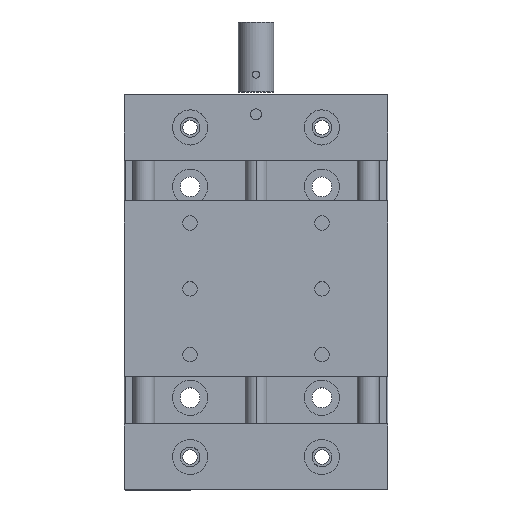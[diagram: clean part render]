
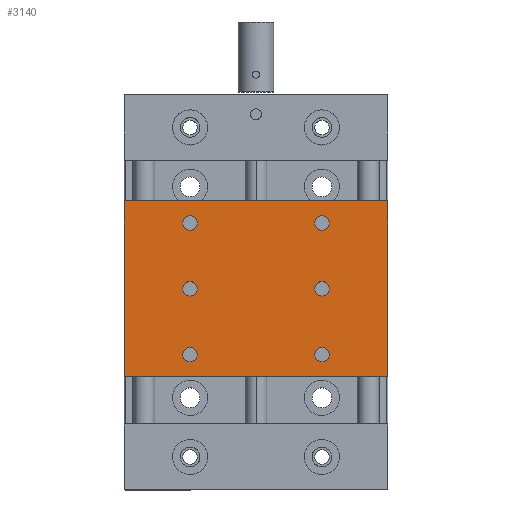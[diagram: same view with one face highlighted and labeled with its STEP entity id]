
A CAD part, top view. The second image highlights one B-rep face of the part: STEP entity #3140.
In plain terms, the highlighted planar face has unit normal (0, 0, -1).
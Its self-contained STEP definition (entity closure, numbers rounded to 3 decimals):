
#64 = FACE_BOUND ( 'NONE', #122, .T. ) ;
#81 = DIRECTION ( 'NONE',  ( 0., 0., -1. ) ) ;
#122 = EDGE_LOOP ( 'NONE', ( #3421, #2827 ) ) ;
#124 = CARTESIAN_POINT ( 'NONE',  ( 2.568, -63.14, 88.153 ) ) ;
#141 = FACE_BOUND ( 'NONE', #6535, .T. ) ;
#171 = AXIS2_PLACEMENT_3D ( 'NONE', #5495, #1207, #3896 ) ;
#235 = EDGE_LOOP ( 'NONE', ( #4572, #6624 ) ) ;
#335 = CARTESIAN_POINT ( 'NONE',  ( 2.568, -93.14, 88.153 ) ) ;
#371 = ORIENTED_EDGE ( 'NONE', *, *, #4055, .F. ) ;
#386 = CARTESIAN_POINT ( 'NONE',  ( -10.782, -98.14, 88.153 ) ) ;
#406 = CIRCLE ( 'NONE', #2994, 1.65 ) ;
#477 = CIRCLE ( 'NONE', #171, 1.65 ) ;
#512 = LINE ( 'NONE', #4580, #3130 ) ;
#551 = DIRECTION ( 'NONE',  ( 0., 0., -1. ) ) ;
#596 = AXIS2_PLACEMENT_3D ( 'NONE', #6666, #4535, #764 ) ;
#617 = PLANE ( 'NONE',  #5458 ) ;
#631 = EDGE_CURVE ( 'NONE', #1284, #1217, #1989, .T. ) ;
#699 = ORIENTED_EDGE ( 'NONE', *, *, #6640, .F. ) ;
#738 = CIRCLE ( 'NONE', #596, 1.65 ) ;
#758 = DIRECTION ( 'NONE',  ( 0., 0., -1. ) ) ;
#764 = DIRECTION ( 'NONE',  ( 1., 0., 0. ) ) ;
#776 = DIRECTION ( 'NONE',  ( 1., 0., 0. ) ) ;
#801 = DIRECTION ( 'NONE',  ( 1., 0., 0. ) ) ;
#909 = CIRCLE ( 'NONE', #5841, 1.65 ) ;
#980 = AXIS2_PLACEMENT_3D ( 'NONE', #1403, #1922, #5181 ) ;
#1013 = VERTEX_POINT ( 'NONE', #4953 ) ;
#1183 = CARTESIAN_POINT ( 'NONE',  ( -10.782, -58.14, 88.153 ) ) ;
#1207 = DIRECTION ( 'NONE',  ( 0., 0., -1. ) ) ;
#1217 = VERTEX_POINT ( 'NONE', #6913 ) ;
#1232 = CARTESIAN_POINT ( 'NONE',  ( 34.218, -78.14, 88.153 ) ) ;
#1236 = FACE_BOUND ( 'NONE', #235, .T. ) ;
#1254 = DIRECTION ( 'NONE',  ( 0., -1., 0. ) ) ;
#1284 = VERTEX_POINT ( 'NONE', #3133 ) ;
#1308 = DIRECTION ( 'NONE',  ( 0., 0., -1. ) ) ;
#1343 = DIRECTION ( 'NONE',  ( 0., 1., 0. ) ) ;
#1395 = FACE_OUTER_BOUND ( 'NONE', #6266, .T. ) ;
#1401 = AXIS2_PLACEMENT_3D ( 'NONE', #1232, #81, #3945 ) ;
#1403 = CARTESIAN_POINT ( 'NONE',  ( 34.218, -63.14, 88.153 ) ) ;
#1487 = CIRCLE ( 'NONE', #1973, 1.65 ) ;
#1513 = ORIENTED_EDGE ( 'NONE', *, *, #3014, .F. ) ;
#1523 = ORIENTED_EDGE ( 'NONE', *, *, #6492, .F. ) ;
#1551 = ORIENTED_EDGE ( 'NONE', *, *, #2467, .F. ) ;
#1562 = CARTESIAN_POINT ( 'NONE',  ( 4.218, -93.14, 88.153 ) ) ;
#1671 = CARTESIAN_POINT ( 'NONE',  ( 19.218, -78.14, 88.153 ) ) ;
#1753 = VERTEX_POINT ( 'NONE', #3189 ) ;
#1769 = DIRECTION ( 'NONE',  ( -1., 0., 0. ) ) ;
#1801 = ORIENTED_EDGE ( 'NONE', *, *, #3337, .F. ) ;
#1830 = DIRECTION ( 'NONE',  ( 1., 0., 0. ) ) ;
#1837 = CARTESIAN_POINT ( 'NONE',  ( 34.218, -93.14, 88.153 ) ) ;
#1922 = DIRECTION ( 'NONE',  ( 0., 0., -1. ) ) ;
#1973 = AXIS2_PLACEMENT_3D ( 'NONE', #2247, #551, #4325 ) ;
#1989 = CIRCLE ( 'NONE', #2586, 1.65 ) ;
#2025 = EDGE_CURVE ( 'NONE', #5678, #6478, #406, .T. ) ;
#2083 = VERTEX_POINT ( 'NONE', #4127 ) ;
#2113 = EDGE_CURVE ( 'NONE', #3573, #6938, #2424, .T. ) ;
#2198 = CIRCLE ( 'NONE', #4705, 1.65 ) ;
#2247 = CARTESIAN_POINT ( 'NONE',  ( 34.218, -63.14, 88.153 ) ) ;
#2311 = AXIS2_PLACEMENT_3D ( 'NONE', #6231, #2393, #3017 ) ;
#2340 = VERTEX_POINT ( 'NONE', #4891 ) ;
#2355 = CARTESIAN_POINT ( 'NONE',  ( 32.568, -63.14, 88.153 ) ) ;
#2393 = DIRECTION ( 'NONE',  ( 0., 0., -1. ) ) ;
#2424 = CIRCLE ( 'NONE', #2311, 1.65 ) ;
#2467 = EDGE_CURVE ( 'NONE', #1217, #1284, #738, .T. ) ;
#2498 = CARTESIAN_POINT ( 'NONE',  ( 35.868, -78.14, 88.153 ) ) ;
#2586 = AXIS2_PLACEMENT_3D ( 'NONE', #5147, #3011, #3055 ) ;
#2606 = DIRECTION ( 'NONE',  ( 0., 0., -1. ) ) ;
#2671 = FACE_BOUND ( 'NONE', #3832, .T. ) ;
#2827 = ORIENTED_EDGE ( 'NONE', *, *, #2025, .F. ) ;
#2840 = LINE ( 'NONE', #5478, #4101 ) ;
#2948 = CARTESIAN_POINT ( 'NONE',  ( -10.782, -58.14, 88.153 ) ) ;
#2978 = VERTEX_POINT ( 'NONE', #5898 ) ;
#2994 = AXIS2_PLACEMENT_3D ( 'NONE', #3451, #1308, #1830 ) ;
#3011 = DIRECTION ( 'NONE',  ( 0., 0., -1. ) ) ;
#3014 = EDGE_CURVE ( 'NONE', #1753, #6481, #4028, .T. ) ;
#3017 = DIRECTION ( 'NONE',  ( 1., 0., 0. ) ) ;
#3055 = DIRECTION ( 'NONE',  ( 1., 0., 0. ) ) ;
#3115 = EDGE_CURVE ( 'NONE', #2340, #3652, #1487, .T. ) ;
#3130 = VECTOR ( 'NONE', #1343, 1000. ) ;
#3133 = CARTESIAN_POINT ( 'NONE',  ( 2.568, -78.14, 88.153 ) ) ;
#3140 = ADVANCED_FACE ( 'NONE', ( #3181, #141, #1395, #1236, #64, #3354, #2671 ), #617, .F. ) ;
#3181 = FACE_BOUND ( 'NONE', #3739, .T. ) ;
#3189 = CARTESIAN_POINT ( 'NONE',  ( 5.868, -93.14, 88.153 ) ) ;
#3297 = AXIS2_PLACEMENT_3D ( 'NONE', #1562, #5357, #4817 ) ;
#3337 = EDGE_CURVE ( 'NONE', #6481, #1753, #477, .T. ) ;
#3354 = FACE_BOUND ( 'NONE', #5840, .T. ) ;
#3421 = ORIENTED_EDGE ( 'NONE', *, *, #6808, .F. ) ;
#3433 = EDGE_CURVE ( 'NONE', #4823, #2978, #4369, .T. ) ;
#3451 = CARTESIAN_POINT ( 'NONE',  ( 4.218, -63.14, 88.153 ) ) ;
#3491 = VERTEX_POINT ( 'NONE', #4062 ) ;
#3573 = VERTEX_POINT ( 'NONE', #4482 ) ;
#3652 = VERTEX_POINT ( 'NONE', #2355 ) ;
#3655 = EDGE_CURVE ( 'NONE', #3652, #2340, #5955, .T. ) ;
#3722 = DIRECTION ( 'NONE',  ( 1., 0., 0. ) ) ;
#3739 = EDGE_LOOP ( 'NONE', ( #6532, #6360 ) ) ;
#3832 = EDGE_LOOP ( 'NONE', ( #699, #5758 ) ) ;
#3896 = DIRECTION ( 'NONE',  ( 1., 0., 0. ) ) ;
#3945 = DIRECTION ( 'NONE',  ( 1., 0., 0. ) ) ;
#4003 = ORIENTED_EDGE ( 'NONE', *, *, #631, .F. ) ;
#4028 = CIRCLE ( 'NONE', #3297, 1.65 ) ;
#4055 = EDGE_CURVE ( 'NONE', #1013, #4823, #2840, .T. ) ;
#4062 = CARTESIAN_POINT ( 'NONE',  ( 35.868, -93.14, 88.153 ) ) ;
#4101 = VECTOR ( 'NONE', #1769, 1000. ) ;
#4127 = CARTESIAN_POINT ( 'NONE',  ( 32.568, -93.14, 88.153 ) ) ;
#4325 = DIRECTION ( 'NONE',  ( 1., 0., 0. ) ) ;
#4369 = LINE ( 'NONE', #1183, #6895 ) ;
#4482 = CARTESIAN_POINT ( 'NONE',  ( 32.568, -78.14, 88.153 ) ) ;
#4535 = DIRECTION ( 'NONE',  ( 0., 0., -1. ) ) ;
#4547 = DIRECTION ( 'NONE',  ( 0., 0., -1. ) ) ;
#4572 = ORIENTED_EDGE ( 'NONE', *, *, #3115, .F. ) ;
#4580 = CARTESIAN_POINT ( 'NONE',  ( 49.218, -58.14, 88.153 ) ) ;
#4705 = AXIS2_PLACEMENT_3D ( 'NONE', #1837, #758, #776 ) ;
#4817 = DIRECTION ( 'NONE',  ( 1., 0., 0. ) ) ;
#4823 = VERTEX_POINT ( 'NONE', #2948 ) ;
#4883 = CIRCLE ( 'NONE', #1401, 1.65 ) ;
#4887 = DIRECTION ( 'NONE',  ( 0., 0., 1. ) ) ;
#4889 = LINE ( 'NONE', #386, #4970 ) ;
#4891 = CARTESIAN_POINT ( 'NONE',  ( 35.868, -63.14, 88.153 ) ) ;
#4916 = ORIENTED_EDGE ( 'NONE', *, *, #5419, .F. ) ;
#4953 = CARTESIAN_POINT ( 'NONE',  ( 49.218, -58.14, 88.153 ) ) ;
#4970 = VECTOR ( 'NONE', #3722, 1000. ) ;
#5094 = VERTEX_POINT ( 'NONE', #5883 ) ;
#5147 = CARTESIAN_POINT ( 'NONE',  ( 4.218, -78.14, 88.153 ) ) ;
#5181 = DIRECTION ( 'NONE',  ( 1., 0., 0. ) ) ;
#5357 = DIRECTION ( 'NONE',  ( 0., 0., -1. ) ) ;
#5419 = EDGE_CURVE ( 'NONE', #5094, #1013, #512, .T. ) ;
#5450 = DIRECTION ( 'NONE',  ( 1., 0., 0. ) ) ;
#5458 = AXIS2_PLACEMENT_3D ( 'NONE', #1671, #4887, #5450 ) ;
#5478 = CARTESIAN_POINT ( 'NONE',  ( -10.782, -58.14, 88.153 ) ) ;
#5494 = EDGE_CURVE ( 'NONE', #2083, #3491, #6232, .T. ) ;
#5495 = CARTESIAN_POINT ( 'NONE',  ( 4.218, -93.14, 88.153 ) ) ;
#5608 = CARTESIAN_POINT ( 'NONE',  ( 4.218, -63.14, 88.153 ) ) ;
#5678 = VERTEX_POINT ( 'NONE', #124 ) ;
#5758 = ORIENTED_EDGE ( 'NONE', *, *, #2113, .F. ) ;
#5812 = CARTESIAN_POINT ( 'NONE',  ( 5.868, -63.14, 88.153 ) ) ;
#5815 = EDGE_CURVE ( 'NONE', #3491, #2083, #2198, .T. ) ;
#5834 = CARTESIAN_POINT ( 'NONE',  ( 34.218, -93.14, 88.153 ) ) ;
#5840 = EDGE_LOOP ( 'NONE', ( #1551, #4003 ) ) ;
#5841 = AXIS2_PLACEMENT_3D ( 'NONE', #5608, #4547, #801 ) ;
#5883 = CARTESIAN_POINT ( 'NONE',  ( 49.218, -98.14, 88.153 ) ) ;
#5898 = CARTESIAN_POINT ( 'NONE',  ( -10.782, -98.14, 88.153 ) ) ;
#5955 = CIRCLE ( 'NONE', #980, 1.65 ) ;
#6141 = ORIENTED_EDGE ( 'NONE', *, *, #3433, .F. ) ;
#6231 = CARTESIAN_POINT ( 'NONE',  ( 34.218, -78.14, 88.153 ) ) ;
#6232 = CIRCLE ( 'NONE', #6654, 1.65 ) ;
#6266 = EDGE_LOOP ( 'NONE', ( #6141, #371, #4916, #1523 ) ) ;
#6360 = ORIENTED_EDGE ( 'NONE', *, *, #5494, .F. ) ;
#6466 = DIRECTION ( 'NONE',  ( 1., 0., 0. ) ) ;
#6478 = VERTEX_POINT ( 'NONE', #5812 ) ;
#6481 = VERTEX_POINT ( 'NONE', #335 ) ;
#6492 = EDGE_CURVE ( 'NONE', #2978, #5094, #4889, .T. ) ;
#6532 = ORIENTED_EDGE ( 'NONE', *, *, #5815, .F. ) ;
#6535 = EDGE_LOOP ( 'NONE', ( #1513, #1801 ) ) ;
#6624 = ORIENTED_EDGE ( 'NONE', *, *, #3655, .F. ) ;
#6640 = EDGE_CURVE ( 'NONE', #6938, #3573, #4883, .T. ) ;
#6654 = AXIS2_PLACEMENT_3D ( 'NONE', #5834, #2606, #6466 ) ;
#6666 = CARTESIAN_POINT ( 'NONE',  ( 4.218, -78.14, 88.153 ) ) ;
#6808 = EDGE_CURVE ( 'NONE', #6478, #5678, #909, .T. ) ;
#6895 = VECTOR ( 'NONE', #1254, 1000. ) ;
#6913 = CARTESIAN_POINT ( 'NONE',  ( 5.868, -78.14, 88.153 ) ) ;
#6938 = VERTEX_POINT ( 'NONE', #2498 ) ;
